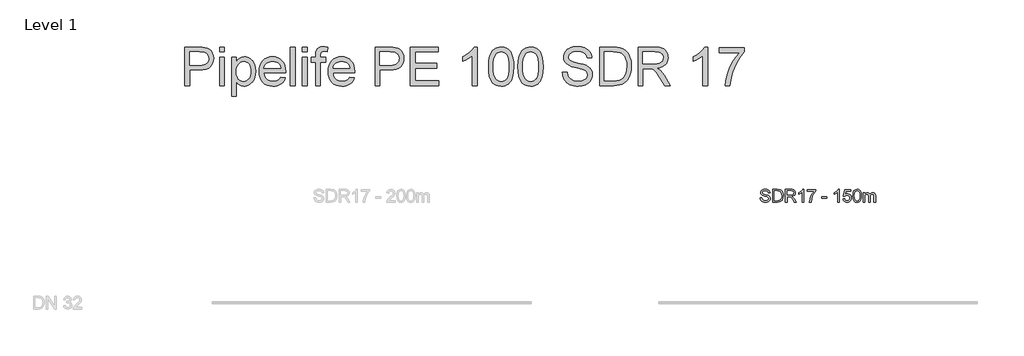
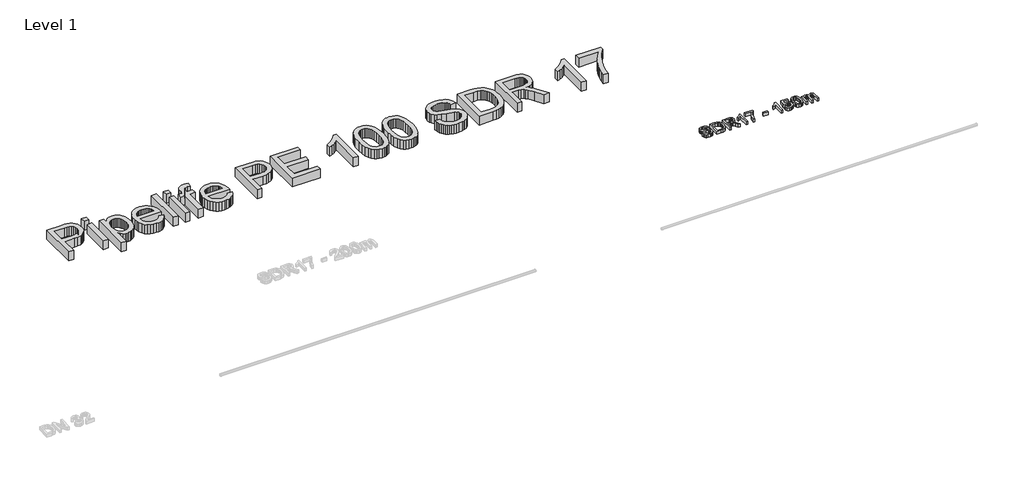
# One storey, part 14 of 26: 2 proxies.
"""IFC4 building model written with IfcOpenShell, lengths in millimetres."""

from ifc_helpers import new_model, si_unit, origin, origin_with_axes, place, context, project, spatial, polyline, outline, extrude, element, save

model = new_model("IFC4")

# Units and contexts
model_context = context("Model", 3, world=origin())
ifc_project = project(units=[si_unit("LENGTHUNIT", "METRE", prefix="MILLI")], contexts=[model_context])

# Site, building, storey
site = spatial("IfcSite", under=ifc_project)
building = spatial("IfcBuilding", under=site)
storey = spatial("IfcBuildingStorey", under=building, Name="Level 1", Elevation=0.0)

# Proxies
placement = place(None, origin())
element("IfcBuildingElementProxy", 1, Name="200mm Arial", ObjectType="200mm Arial", at=placement, inside=storey, context=model_context, shape_type="SweptSolid", body=[
    extrude(outline(polyline([(-7939.9131763, -36668.9871574), (-7914.7990987, -36668.9871574), (-7906.7056948, -36694.1257604), (-7898.5755027, -36703.016242), (-7886.9381689, -36710.0182626), (-7872.7133985, -36714.5616053), (-7856.8208963, -36716.0760528), (-7830.5786473, -36711.4897906), (-7813.63155, -36698.8837009), (-7808.0642692, -36682.0347055), (-7812.2335985, -36666.3629325), (-7818.5856942, -36660.1641209), (-7829.303323, -36654.9585907), (-7865.8707934, -36645.3691333), (-7905.2341668, -36632.9837728), (-7917.7360233, -36624.5347497), (-7926.595848, -36614.2953675), (-7931.8749547, -36602.4863554), (-7933.6346569, -36589.3284427), (-7931.4580217, -36574.6192943), (-7924.9281163, -36560.9034272), (-7914.2166189, -36549.2783562), (-7899.4952077, -36540.8415958), (-7881.8246092, -36535.7096419), (-7862.2655498, -36533.9989907), (-7841.0755469, -36535.7893497), (-7822.5342943, -36541.1604268), (-7807.3039797, -36550.0018575), (-7796.0467907, -36562.203277), (-7788.9221427, -36577.0043959), (-7786.0894513, -36593.6449248), (-7811.2035289, -36593.6449248), (-7815.8143165, -36578.6598649), (-7825.4282994, -36567.8441342), (-7840.4501475, -36561.2958347), (-7861.2845312, -36559.1130682), (-7882.6094241, -36561.2713092), (-7897.2388648, -36567.7460324), (-7905.7001507, -36577.274176), (-7908.5205793, -36588.5926788), (-7906.5217538, -36598.2434498), (-7900.5252773, -36606.0057599), (-7886.3495578, -36612.9464668), (-7859.5186976, -36620.0343266), (-7815.0785526, -36632.6404163), (-7800.7618116, -36641.7516271), (-7790.7738154, -36652.9965534), (-7784.9060976, -36666.2525679), (-7782.9501916, -36681.3970434), (-7785.2004032, -36696.878744), (-7791.9510378, -36711.4407397), (-7802.926184, -36723.973253), (-7817.8499303, -36733.3665066), (-7835.7964403, -36739.2342244), (-7855.8398776, -36741.1901304), (-7880.4450517, -36739.0809402), (-7900.6969556, -36732.7533699), (-7916.8285811, -36722.1828939), (-7929.0729201, -36707.3449868), (-7936.9333321, -36689.2697181), (-7939.9131763, -36668.9871574)])), origin_with_axes(), (0.0, 0.0, 1.0), 50.0),
    extrude(outline(polyline([(-7745.2790753, -36738.0508707), (-7745.2790753, -36537.1382504), (-7675.9701074, -36537.1382504), (-7640.1138757, -36540.0322554), (-7624.0987461, -36545.611799), (-7610.5852142, -36554.4041787), (-7596.6915375, -36569.7080697), (-7586.7955118, -36588.7398315), (-7580.8726117, -36611.1315823), (-7578.8983117, -36636.51544), (-7584.2448633, -36677.0560359), (-7597.9791245, -36706.3149172), (-7616.3241733, -36724.5373387), (-7640.3346048, -36734.6173054), (-7672.634644, -36738.0508707), (-7745.2790753, -36738.0508707)]), holes=[polyline([(-7720.1649978, -36712.9367931), (-7675.7248528, -36712.9367931), (-7643.4002881, -36709.3070241), (-7624.7609337, -36699.0553792), (-7616.0359991, -36688.1844662), (-7609.4815682, -36674.1129799), (-7605.3796839, -36656.7796066), (-7604.0123892, -36636.1230325), (-7606.6917964, -36608.7526121), (-7614.730018, -36588.5436278), (-7626.6064751, -36574.6622139), (-7640.8005887, -36566.2745044), (-7676.4115658, -36562.2523279), (-7720.1649978, -36562.2523279), (-7720.1649978, -36712.9367931)])]), origin_with_axes(), (0.0, 0.0, 1.0), 50.0),
    extrude(outline(polyline([(-7544.366455, -36738.0508707), (-7544.366455, -36537.1382504), (-7457.7915588, -36537.1382504), (-7434.5230226, -36538.4932824), (-7417.5943195, -36542.5583784), (-7405.2212217, -36550.0631711), (-7395.6195017, -36561.7372931), (-7389.4574782, -36576.2134496), (-7387.4034704, -36592.1243459), (-7390.8063789, -36611.9163972), (-7401.0151043, -36628.3239342), (-7418.3362149, -36640.3536755), (-7443.076279, -36647.0123396), (-7428.8024576, -36657.7544938), (-7408.4463206, -36683.6043354), (-7374.9445335, -36738.0508707), (-7404.1298385, -36738.0508707), (-7430.2739856, -36696.4066288), (-7449.1585947, -36668.8400046), (-7462.426872, -36655.816982), (-7474.3707741, -36651.0345161), (-7488.9389011, -36650.1515993), (-7519.2523775, -36650.1515993), (-7519.2523775, -36738.0508707), (-7544.366455, -36738.0508707)]), holes=[polyline([(-7519.2523775, -36625.0375217), (-7463.0400086, -36625.0375217), (-7434.3697385, -36621.4813291), (-7424.9396967, -36616.8582787), (-7418.0848288, -36610.1015127), (-7412.517548, -36593.0563136), (-7415.1724297, -36580.8058432), (-7423.1370749, -36570.934343), (-7436.8406792, -36564.4228317), (-7456.7124383, -36562.2523279), (-7519.2523775, -36562.2523279), (-7519.2523775, -36625.0375217)])]), origin_with_axes(), (0.0, 0.0, 1.0), 50.0),
    extrude(outline(polyline([(-7258.6938231, -36738.0508707), (-7283.8079006, -36738.0508707), (-7283.8079006, -36581.4802935), (-7307.5976029, -36598.4273908), (-7334.0360557, -36611.1070569), (-7334.0360557, -36587.3664054), (-7297.2233307, -36563.8710087), (-7283.7527183, -36550.2961631), (-7274.8806308, -36537.1382504), (-7258.6938231, -36537.1382504), (-7258.6938231, -36738.0508707)])), origin_with_axes(), (0.0, 0.0, 1.0), 50.0),
    extrude(outline(polyline([(-7199.0478889, -36565.3915876), (-7199.0478889, -36540.2775101), (-7067.1989818, -36540.2775101), (-7067.1989818, -36560.5845962), (-7085.9916204, -36584.3681672), (-7104.600318, -36614.6141985), (-7121.0139864, -36648.5635753), (-7133.2215372, -36683.4571826), (-7142.5412144, -36738.0508707), (-7167.655292, -36738.0508707), (-7164.9390966, -36712.1642409), (-7157.6734272, -36681.3970434), (-7146.0544875, -36648.7843045), (-7130.2784813, -36617.3610508), (-7111.859856, -36588.9544294), (-7092.3130594, -36565.3915876), (-7199.0478889, -36565.3915876)])), origin_with_axes(), (0.0, 0.0, 1.0), 50.0),
    extrude(outline(polyline([(-6973.0211911, -36678.4049365), (-6973.0211911, -36653.290859), (-6894.5396988, -36653.290859), (-6894.5396988, -36678.4049365), (-6973.0211911, -36678.4049365)])), origin_with_axes(), (0.0, 0.0, 1.0), 50.0),
    extrude(outline(polyline([(-6699.9055978, -36738.0508707), (-6725.0196754, -36738.0508707), (-6725.0196754, -36581.4802935), (-6748.8093777, -36598.4273908), (-6775.2478305, -36611.1070569), (-6775.2478305, -36587.3664054), (-6738.4351055, -36563.8710087), (-6724.9644931, -36550.2961631), (-6716.0924056, -36537.1382504), (-6699.9055978, -36537.1382504), (-6699.9055978, -36738.0508707)])), origin_with_axes(), (0.0, 0.0, 1.0), 50.0),
    extrude(outline(polyline([(-6640.2596637, -36684.6834559), (-6615.1455862, -36681.5441962), (-6610.5347985, -36696.6212266), (-6602.4904455, -36707.4185632), (-6591.0493155, -36713.9116804), (-6576.2481965, -36716.0760528), (-6558.2465042, -36713.0655518), (-6544.7574977, -36704.0340488), (-6536.3330001, -36690.0238762), (-6533.5248342, -36672.0773662), (-6536.1551904, -36655.1793199), (-6544.0462592, -36642.2543991), (-6557.2593542, -36634.0506306), (-6575.8557891, -36631.3160411), (-6597.9041833, -36635.6815741), (-6612.0063265, -36647.0123396), (-6637.120404, -36643.8730799), (-6615.1455862, -36540.2775101), (-6517.8285357, -36540.2775101), (-6517.8285357, -36565.3915876), (-6594.8385, -36565.3915876), (-6605.5806543, -36620.7210397), (-6587.6402757, -36609.8317326), (-6568.8415057, -36606.2019636), (-6545.3767658, -36610.7023867), (-6525.8974141, -36624.2036559), (-6512.782421, -36644.7805221), (-6508.4107566, -36670.5077363), (-6512.347094, -36695.6218139), (-6524.156106, -36717.1061224), (-6534.5916919, -36727.6428759), (-6546.768586, -36735.1691284), (-6560.6867881, -36739.6848799), (-6576.3462984, -36741.1901304), (-6601.0127862, -36737.321238), (-6620.6638161, -36725.7145611), (-6634.1344285, -36707.7190002), (-6640.2596637, -36684.6834559)])), origin_with_axes(), (0.0, 0.0, 1.0), 50.0),
    extrude(outline(polyline([(-6486.4359388, -36639.2132413), (-6484.5903974, -36607.0542235), (-6479.0537734, -36581.4067171), (-6469.881249, -36561.8783145), (-6457.1280065, -36548.0766083), (-6440.7020754, -36539.8728399), (-6420.5114852, -36537.1382504), (-6405.035916, -36538.7569311), (-6391.1790275, -36543.6129735), (-6379.5907446, -36551.516305), (-6370.9209923, -36562.2768534), (-6359.1487684, -36592.0017186), (-6354.5870317, -36639.2132413), (-6356.4141789, -36671.188318), (-6361.8956207, -36696.7745108), (-6371.0129628, -36716.3213075), (-6383.7478112, -36730.178196), (-6400.2105305, -36738.4371468), (-6420.5114852, -36741.1901304), (-6446.6065814, -36736.4076644), (-6466.4231582, -36722.0602666), (-6475.1787497, -36706.9311195), (-6481.4327436, -36688.080233), (-6486.4359388, -36639.2132413)]), holes=[polyline([(-6461.3218612, -36639.1641904), (-6458.3788053, -36678.6685853), (-6449.5496374, -36701.5324513), (-6436.4039874, -36712.4401524), (-6420.5114852, -36716.0760528), (-6404.6189831, -36712.4278897), (-6391.4733331, -36701.4834003), (-6382.6441652, -36678.6072716), (-6379.7011092, -36639.1641904), (-6382.5460633, -36600.5488436), (-6391.0809256, -36577.507168), (-6404.2020501, -36566.0660379), (-6420.8057908, -36562.2523279), (-6436.5266148, -36565.6123168), (-6449.1572299, -36575.6922835), (-6458.2807034, -36600.1686989), (-6461.3218612, -36639.1641904)])]), origin_with_axes(), (0.0, 0.0, 1.0), 50.0),
    extrude(outline(polyline([(-6326.3336945, -36738.0508707), (-6326.3336945, -36590.5056651), (-6301.2196169, -36590.5056651), (-6301.2196169, -36614.7858768), (-6293.6657733, -36603.632921), (-6283.9536886, -36594.8957236), (-6272.4144567, -36589.248735), (-6259.3791714, -36587.3664054), (-6245.4119183, -36589.2855232), (-6234.2160429, -36595.0428764), (-6225.8528589, -36604.2583204), (-6220.3836799, -36616.5517104), (-6211.2295496, -36603.7831395), (-6200.7878323, -36594.6627317), (-6189.058528, -36589.190487), (-6176.0416367, -36587.3664054), (-6157.163159, -36590.4014319), (-6143.2020373, -36599.5065113), (-6134.5752045, -36614.9268982), (-6131.6995936, -36636.9078475), (-6131.6995936, -36738.0508707), (-6156.8136711, -36738.0508707), (-6156.8136711, -36647.6990526), (-6159.1435904, -36626.7297789), (-6167.5803508, -36616.4045576), (-6181.9277486, -36612.480483), (-6195.5332511, -36614.9943433), (-6206.6248932, -36622.5359242), (-6214.0009272, -36635.6202605), (-6216.4596053, -36654.762387), (-6216.4596053, -36738.0508707), (-6241.5736828, -36738.0508707), (-6241.5736828, -36644.9031495), (-6243.0268167, -36630.7029045), (-6247.3862183, -36620.5738869), (-6255.0565579, -36614.5038339), (-6266.4425057, -36612.480483), (-6285.0328092, -36617.8760856), (-6292.3904491, -36624.5224869), (-6297.3936442, -36633.6704859), (-6301.2196169, -36663.6406058), (-6301.2196169, -36738.0508707), (-6326.3336945, -36738.0508707)])), origin_with_axes(), (0.0, 0.0, 1.0), 50.0),
])
element("IfcBuildingElementProxy", 2, Name="600mm Arial", ObjectType="600mm Arial", at=placement, inside=storey, context=model_context, shape_type="SweptSolid", body=[
    extrude(outline(polyline([(-16966.7426717, -34909.5373902), (-16966.7426717, -34306.7995293), (-16743.3647242, -34306.7995293), (-16691.3462101, -34308.2342691), (-16653.3072118, -34312.5384884), (-16613.152892, -34323.2622486), (-16580.0986947, -34340.7182492), (-16553.4824324, -34365.6974367), (-16532.6419174, -34398.9907573), (-16519.1774363, -34438.2621602), (-16514.689276, -34481.175595), (-16517.7197039, -34518.1753266), (-16526.8109877, -34552.2136083), (-16541.9631274, -34583.2904398), (-16563.176123, -34611.4058213), (-16592.2985814, -34634.7111457), (-16631.1791098, -34651.357806), (-16679.8177081, -34661.3458021), (-16738.2143763, -34664.6751342), (-16891.4004391, -34664.6751342), (-16891.4004391, -34909.5373902), (-16966.7426717, -34909.5373902)]), holes=[polyline([(-16891.4004391, -34589.3329016), (-16733.7997923, -34589.3329016), (-16697.5634158, -34587.6038562), (-16666.992422, -34582.4167201), (-16642.0868109, -34573.7714932), (-16622.8465826, -34561.6681755), (-16608.4899877, -34546.4286639), (-16598.2352771, -34528.374855), (-16592.0824507, -34507.5067488), (-16590.0315086, -34483.8243453), (-16594.8691569, -34449.9792018), (-16609.3821016, -34421.431559), (-16631.767721, -34399.9472504), (-16660.2233933, -34387.2921098), (-16689.2860709, -34383.4293489), (-16735.5656259, -34382.1417619), (-16891.4004391, -34382.1417619), (-16891.4004391, -34589.3329016)])]), origin_with_axes(), (0.0, 0.0, 1.0), 150.0),
    extrude(outline(polyline([(-16420.5114852, -34909.5373902), (-16420.5114852, -34466.9017736), (-16345.1692526, -34466.9017736), (-16345.1692526, -34909.5373902), (-16420.5114852, -34909.5373902)])), origin_with_axes(), (0.0, 0.0, 1.0), 150.0),
    extrude(outline(polyline([(-16420.5114852, -34382.1417619), (-16420.5114852, -34306.7995293), (-16345.1692526, -34306.7995293), (-16345.1692526, -34382.1417619), (-16420.5114852, -34382.1417619)])), origin_with_axes(), (0.0, 0.0, 1.0), 150.0),
    extrude(outline(polyline([(-16232.1559037, -35079.0574135), (-16232.1559037, -34466.9017736), (-16156.8136711, -34466.9017736), (-16156.8136711, -34540.7724782), (-16132.2391538, -34504.3337666), (-16104.7215806, -34478.3061154), (-16072.6422706, -34462.6895247), (-16034.3825431, -34457.4839945), (-16008.1065716, -34459.3050104), (-15983.4308868, -34464.768058), (-15960.3554886, -34473.8731374), (-15938.8803772, -34486.6202485), (-15919.4746019, -34502.6782976), (-15902.6072124, -34521.7161909), (-15888.2782087, -34543.7339283), (-15876.4875908, -34568.7315098), (-15860.7054532, -34624.2449029), (-15855.4447407, -34684.8350675), (-15861.3860349, -34749.269599), (-15868.8126527, -34778.9346834), (-15879.2099175, -34806.8983135), (-15892.4352753, -34832.429324), (-15908.3461716, -34854.7965493), (-15926.9426064, -34873.9999894), (-15948.2245798, -34890.0396444), (-15971.1482267, -34902.6901865), (-15994.6696817, -34911.726288), (-16018.788945, -34917.1479489), (-16043.5060166, -34918.9551692), (-16078.1421064, -34914.117521), (-16109.0625881, -34899.6045763), (-16135.5316977, -34877.6972035), (-16156.8136711, -34850.6762709), (-16156.8136711, -35079.0574135), (-16232.1559037, -35079.0574135)]), holes=[polyline([(-16156.8136711, -34691.751249), (-16154.7765246, -34728.0612019), (-16148.6650849, -34759.2943833), (-16138.4793522, -34785.4507932), (-16124.2193263, -34806.5304315), (-16107.0530327, -34822.7540275), (-16088.1484967, -34834.3423104), (-16067.5057182, -34841.2952801), (-16045.1246974, -34843.6129366), (-16022.4217797, -34841.2125066), (-16001.4019222, -34834.0112166), (-15982.0651249, -34822.0090665), (-15964.4113876, -34805.2060563), (-15949.7007063, -34783.3630629), (-15939.1930769, -34756.2409628), (-15932.8884992, -34723.8397561), (-15930.7869733, -34686.1594427), (-15932.8379154, -34650.1621895), (-15938.9907418, -34618.9841904), (-15949.2454524, -34592.6254454), (-15963.6020472, -34571.0859546), (-15980.8097276, -34554.3473238), (-15999.6176946, -34542.391159), (-16020.0259482, -34535.2174601), (-16042.0344886, -34532.8262271), (-16063.9740511, -34535.3692114), (-16084.6168295, -34542.9981643), (-16103.962824, -34555.7130857), (-16122.0120344, -34573.5139758), (-16137.2377504, -34596.1617111), (-16148.1132619, -34623.4171684), (-16154.6385688, -34655.2803477), (-16156.8136711, -34691.751249)])]), origin_with_axes(), (0.0, 0.0, 1.0), 150.0),
    extrude(outline(polyline([(-15460.7809362, -34777.6884831), (-15386.9102316, -34787.1062622), (-15398.2363985, -34816.6931716), (-15413.5264939, -34842.766808), (-15432.7805179, -34865.3271714), (-15455.9984703, -34884.3742617), (-15482.9412279, -34899.5034087), (-15513.3696674, -34910.3099424), (-15547.2837889, -34916.7938625), (-15584.6835922, -34918.9551692), (-15631.4321967, -34915.2257655), (-15673.0856356, -34904.0375543), (-15709.6439089, -34885.3905357), (-15741.1070165, -34859.2847096), (-15766.4081008, -34826.446643), (-15784.4803038, -34787.6029029), (-15795.3236256, -34742.7534891), (-15798.9380662, -34691.8984018), (-15795.2868374, -34639.3188677), (-15784.333151, -34592.9749333), (-15766.077007, -34552.8665988), (-15740.5184054, -34518.9938641), (-15709.1380712, -34492.0832961), (-15673.4167294, -34472.8614619), (-15633.3543802, -34461.3283613), (-15588.9510233, -34457.4839945), (-15545.9778078, -34461.3191643), (-15507.1156735, -34472.8246737), (-15472.3646205, -34492.0005227), (-15441.7246489, -34518.8467113), (-15416.7132717, -34552.6458696), (-15398.8480023, -34592.6806277), (-15388.1288407, -34638.9509857), (-15384.5557868, -34691.4569434), (-15384.9972452, -34711.7640296), (-15723.5958336, -34711.7640296), (-15719.2318334, -34741.8291856), (-15710.5544168, -34768.1603394), (-15697.5635839, -34790.757491), (-15680.2593345, -34809.6206403), (-15659.598162, -34824.4922699), (-15636.5365594, -34835.1148625), (-15611.0745268, -34841.4884181), (-15583.2120642, -34843.6129366), (-15543.1129267, -34839.6765993), (-15509.3413596, -34827.8675872), (-15481.8973627, -34807.4501365), (-15460.7809362, -34777.6884831)]), holes=[polyline([(-15723.5958336, -34636.4217969), (-15459.8980194, -34636.4217969), (-15470.0883507, -34596.6169651), (-15478.8531392, -34580.9635862), (-15490.064343, -34568.1428986), (-15510.6105525, -34552.6918548), (-15533.9894533, -34541.655395), (-15560.2010454, -34535.0335191), (-15589.2453289, -34532.8262271), (-15615.7374311, -34534.5874622), (-15640.0314384, -34539.8711673), (-15662.1273507, -34548.6773426), (-15682.0251681, -34561.0059879), (-15698.7224122, -34576.2868863), (-15711.2166044, -34593.9498206), (-15719.5077449, -34613.9947908), (-15723.5958336, -34636.4217969)])]), origin_with_axes(), (0.0, 0.0, 1.0), 150.0),
    extrude(outline(polyline([(-15309.2135542, -34909.5373902), (-15309.2135542, -34306.7995293), (-15233.8713216, -34306.7995293), (-15233.8713216, -34909.5373902), (-15309.2135542, -34909.5373902)])), origin_with_axes(), (0.0, 0.0, 1.0), 150.0),
    extrude(outline(polyline([(-15120.8579727, -34382.1417619), (-15120.8579727, -34306.7995293), (-15045.5157401, -34306.7995293), (-15045.5157401, -34382.1417619), (-15120.8579727, -34382.1417619)])), origin_with_axes(), (0.0, 0.0, 1.0), 150.0),
    extrude(outline(polyline([(-15120.8579727, -34909.5373902), (-15120.8579727, -34466.9017736), (-15045.5157401, -34466.9017736), (-15045.5157401, -34909.5373902), (-15120.8579727, -34909.5373902)])), origin_with_axes(), (0.0, 0.0, 1.0), 150.0),
    extrude(outline(polyline([(-14913.666833, -34909.5373902), (-14913.666833, -34542.2440062), (-14979.5912865, -34542.2440062), (-14979.5912865, -34466.9017736), (-14913.666833, -34466.9017736), (-14913.666833, -34422.3144758), (-14911.6802702, -34385.4159116), (-14905.7205819, -34359.480231), (-14890.5638437, -34334.4274671), (-14867.1665488, -34314.5986276), (-14834.4250512, -34301.6859695), (-14791.235705, -34297.3817502), (-14758.5309956, -34299.4418894), (-14722.5153483, -34305.6223069), (-14733.5518082, -34376.25565), (-14776.9618836, -34372.7239828), (-14805.6014969, -34375.8509798), (-14824.418661, -34385.2319706), (-14834.8481155, -34403.1478238), (-14838.3246004, -34431.8794076), (-14838.3246004, -34466.9017736), (-14753.5645887, -34466.9017736), (-14753.5645887, -34542.2440062), (-14838.3246004, -34542.2440062), (-14838.3246004, -34909.5373902), (-14913.666833, -34909.5373902)])), origin_with_axes(), (0.0, 0.0, 1.0), 150.0),
    extrude(outline(polyline([(-14377.7363424, -34777.6884831), (-14303.8656378, -34787.1062622), (-14315.1918047, -34816.6931716), (-14330.4819001, -34842.766808), (-14349.7359241, -34865.3271714), (-14372.9538765, -34884.3742617), (-14399.8966341, -34899.5034087), (-14430.3250736, -34910.3099424), (-14464.2391951, -34916.7938625), (-14501.6389984, -34918.9551692), (-14548.3876029, -34915.2257655), (-14590.0410418, -34904.0375543), (-14626.5993151, -34885.3905357), (-14658.0624227, -34859.2847096), (-14683.363507, -34826.446643), (-14701.43571, -34787.6029029), (-14712.2790318, -34742.7534891), (-14715.8934724, -34691.8984018), (-14712.2422436, -34639.3188677), (-14701.2885572, -34592.9749333), (-14683.0324132, -34552.8665988), (-14657.4738116, -34518.9938641), (-14626.0934774, -34492.0832961), (-14590.3721356, -34472.8614619), (-14550.3097864, -34461.3283613), (-14505.9064295, -34457.4839945), (-14462.933214, -34461.3191643), (-14424.0710797, -34472.8246737), (-14389.3200267, -34492.0005227), (-14358.6800551, -34518.8467113), (-14333.6686779, -34552.6458696), (-14315.8034085, -34592.6806277), (-14305.0842469, -34638.9509857), (-14301.511193, -34691.4569434), (-14301.9526514, -34711.7640296), (-14640.5512398, -34711.7640296), (-14636.1872396, -34741.8291856), (-14627.509823, -34768.1603394), (-14614.5189901, -34790.757491), (-14597.2147407, -34809.6206403), (-14576.5535682, -34824.4922699), (-14553.4919656, -34835.1148625), (-14528.029933, -34841.4884181), (-14500.1674704, -34843.6129366), (-14460.0683329, -34839.6765993), (-14426.2967658, -34827.8675872), (-14398.8527689, -34807.4501365), (-14377.7363424, -34777.6884831)]), holes=[polyline([(-14640.5512398, -34636.4217969), (-14376.8534256, -34636.4217969), (-14387.0437569, -34596.6169651), (-14395.8085454, -34580.9635862), (-14407.0197492, -34568.1428986), (-14427.5659587, -34552.6918548), (-14450.9448595, -34541.655395), (-14477.1564516, -34535.0335191), (-14506.2007351, -34532.8262271), (-14532.6928373, -34534.5874622), (-14556.9868446, -34539.8711673), (-14579.0827569, -34548.6773426), (-14598.9805743, -34561.0059879), (-14615.6778184, -34576.2868863), (-14628.1720106, -34593.9498206), (-14636.4631511, -34613.9947908), (-14640.5512398, -34636.4217969)])]), origin_with_axes(), (0.0, 0.0, 1.0), 150.0),
    extrude(outline(polyline([(-13981.3067044, -34909.5373902), (-13981.3067044, -34306.7995293), (-13757.928757, -34306.7995293), (-13705.9102428, -34308.2342691), (-13667.8712445, -34312.5384884), (-13627.7169248, -34323.2622486), (-13594.6627275, -34340.7182492), (-13568.0464651, -34365.6974367), (-13547.2059501, -34398.9907573), (-13533.7414691, -34438.2621602), (-13529.2533087, -34481.175595), (-13532.2837367, -34518.1753266), (-13541.3750205, -34552.2136083), (-13556.5271602, -34583.2904398), (-13577.7401557, -34611.4058213), (-13606.8626142, -34634.7111457), (-13645.7431425, -34651.357806), (-13694.3817408, -34661.3458021), (-13752.778409, -34664.6751342), (-13905.9644718, -34664.6751342), (-13905.9644718, -34909.5373902), (-13981.3067044, -34909.5373902)]), holes=[polyline([(-13905.9644718, -34589.3329016), (-13748.3638251, -34589.3329016), (-13712.1274486, -34587.6038562), (-13681.5564548, -34582.4167201), (-13656.6508437, -34573.7714932), (-13637.4106153, -34561.6681755), (-13623.0540205, -34546.4286639), (-13612.7993099, -34528.374855), (-13606.6464835, -34507.5067488), (-13604.5955414, -34483.8243453), (-13609.4331896, -34449.9792018), (-13623.9461343, -34421.431559), (-13646.3317537, -34399.9472504), (-13674.787426, -34387.2921098), (-13703.8501037, -34383.4293489), (-13750.1296587, -34382.1417619), (-13905.9644718, -34382.1417619), (-13905.9644718, -34589.3329016)])]), origin_with_axes(), (0.0, 0.0, 1.0), 150.0),
    extrude(outline(polyline([(-13425.6577389, -34909.5373902), (-13425.6577389, -34306.7995293), (-12992.4399014, -34306.7995293), (-12992.4399014, -34382.1417619), (-13350.3155063, -34382.1417619), (-13350.3155063, -34561.0795643), (-13011.2754595, -34561.0795643), (-13011.2754595, -34636.4217969), (-13350.3155063, -34636.4217969), (-13350.3155063, -34834.1951576), (-12983.0221223, -34834.1951576), (-12983.0221223, -34909.5373902), (-13425.6577389, -34909.5373902)])), origin_with_axes(), (0.0, 0.0, 1.0), 150.0),
    extrude(outline(polyline([(-12380.2842614, -34909.5373902), (-12455.626494, -34909.5373902), (-12455.626494, -34439.8256587), (-12487.0804046, -34465.2646987), (-12526.9956011, -34490.6669505), (-12568.8973603, -34512.8686289), (-12606.3109592, -34528.7059488), (-12606.3109592, -34457.4839945), (-12547.1371403, -34425.2943199), (-12495.8727843, -34386.9978042), (-12455.4609471, -34346.2732674), (-12428.8446848, -34306.7995293), (-12380.2842614, -34306.7995293), (-12380.2842614, -34909.5373902)])), origin_with_axes(), (0.0, 0.0, 1.0), 150.0),
    extrude(outline(polyline([(-12201.346459, -34613.0245021), (-12195.8098349, -34516.5474488), (-12188.8890549, -34475.6343724), (-12179.1999628, -34439.6049295), (-12166.7839455, -34408.1648145), (-12151.6823896, -34381.0197218), (-12133.8952951, -34358.1696514), (-12113.4226621, -34339.6146032), (-12090.1955126, -34325.2580084), (-12064.1448689, -34315.0032978), (-12035.2707308, -34308.8504714), (-12003.5730984, -34306.7995293), (-11957.1463906, -34311.6555716), (-11915.5757251, -34326.2236986), (-11880.8108766, -34349.9336932), (-11854.8016195, -34382.2153383), (-11835.156721, -34422.7927223), (-11819.484948, -34471.3899339), (-11809.2210403, -34533.1021386), (-11805.7997377, -34613.0245021), (-11811.2811795, -34708.9497323), (-11818.1329816, -34749.7248529), (-11827.7255047, -34785.7083106), (-11840.044953, -34817.1622212), (-11855.077531, -34844.3487006), (-11872.8232387, -34867.2677489), (-11893.2820762, -34885.9193661), (-11916.5368168, -34900.37253), (-11942.670234, -34910.6962185), (-11971.6823279, -34916.8904315), (-12003.5730984, -34918.9551692), (-12045.0701874, -34915.3683198), (-12081.8583869, -34904.6077714), (-12113.9376969, -34886.6735242), (-12141.3081173, -34861.565578), (-12167.5748918, -34816.1781368), (-12186.3368736, -34759.6254771), (-12197.5940626, -34691.9075989), (-12201.346459, -34613.0245021)]), holes=[polyline([(-12126.0042263, -34612.8773493), (-12123.7969344, -34678.37414), (-12117.1750585, -34731.390534), (-12106.1385986, -34771.9265313), (-12090.6875548, -34799.982132), (-12071.9991495, -34819.070609), (-12051.2506049, -34832.7052355), (-12028.4419212, -34840.8860113), (-12003.5730984, -34843.6129366), (-11978.7042755, -34840.8768143), (-11955.8955918, -34832.6684473), (-11935.1470472, -34818.9878356), (-11916.4586419, -34799.8349792), (-11901.0075981, -34771.7333933), (-11889.9711382, -34731.206593), (-11883.3492623, -34678.2545783), (-11881.1419704, -34612.8773493), (-11883.2756859, -34549.1142024), (-11889.6768326, -34497.031309), (-11900.3454105, -34456.6286689), (-11915.2814195, -34427.9062821), (-11933.6571252, -34407.8843045), (-11954.644793, -34393.5828919), (-11978.244423, -34385.0020444), (-12004.4560151, -34382.1417619), (-12029.1960793, -34384.6617535), (-12051.6184869, -34392.2217286), (-12071.723238, -34404.8216869), (-12089.5103324, -34422.4616286), (-12105.476411, -34453.7315981), (-12116.8807529, -34495.8908748), (-12123.723358, -34548.9394585), (-12126.0042263, -34612.8773493)])]), origin_with_axes(), (0.0, 0.0, 1.0), 150.0),
    extrude(outline(polyline([(-11739.8752842, -34613.0245021), (-11734.3386602, -34516.5474488), (-11727.4178801, -34475.6343724), (-11717.7287881, -34439.6049295), (-11705.3127708, -34408.1648145), (-11690.2112149, -34381.0197218), (-11672.4241204, -34358.1696514), (-11651.9514874, -34339.6146032), (-11628.7243379, -34325.2580084), (-11602.6736941, -34315.0032978), (-11573.799556, -34308.8504714), (-11542.1019236, -34306.7995293), (-11495.6752158, -34311.6555716), (-11454.1045504, -34326.2236986), (-11419.3397018, -34349.9336932), (-11393.3304448, -34382.2153383), (-11373.6855462, -34422.7927223), (-11358.0137732, -34471.3899339), (-11347.7498655, -34533.1021386), (-11344.328563, -34613.0245021), (-11349.8100047, -34708.9497323), (-11356.6618069, -34749.7248529), (-11366.2543299, -34785.7083106), (-11378.5737782, -34817.1622212), (-11393.6063562, -34844.3487006), (-11411.352064, -34867.2677489), (-11431.8109014, -34885.9193661), (-11455.0656421, -34900.37253), (-11481.1990593, -34910.6962185), (-11510.2111531, -34916.8904315), (-11542.1019236, -34918.9551692), (-11583.5990127, -34915.3683198), (-11620.3872122, -34904.6077714), (-11652.4665222, -34886.6735242), (-11679.8369426, -34861.565578), (-11706.1037171, -34816.1781368), (-11724.8656988, -34759.6254771), (-11736.1228879, -34691.9075989), (-11739.8752842, -34613.0245021)]), holes=[polyline([(-11664.5330516, -34612.8773493), (-11662.3257596, -34678.37414), (-11655.7038837, -34731.390534), (-11644.6674239, -34771.9265313), (-11629.2163801, -34799.982132), (-11610.5279747, -34819.070609), (-11589.7794302, -34832.7052355), (-11566.9707465, -34840.8860113), (-11542.1019236, -34843.6129366), (-11517.2331007, -34840.8768143), (-11494.424417, -34832.6684473), (-11473.6758725, -34818.9878356), (-11454.9874671, -34799.8349792), (-11439.5364233, -34771.7333933), (-11428.4999635, -34731.206593), (-11421.8780876, -34678.2545783), (-11419.6707956, -34612.8773493), (-11421.8045112, -34549.1142024), (-11428.2056579, -34497.031309), (-11438.8742358, -34456.6286689), (-11453.8102448, -34427.9062821), (-11472.1859504, -34407.8843045), (-11493.1736182, -34393.5828919), (-11516.7732482, -34385.0020444), (-11542.9848404, -34382.1417619), (-11567.7249046, -34384.6617535), (-11590.1473122, -34392.2217286), (-11610.2520632, -34404.8216869), (-11628.0391577, -34422.4616286), (-11644.0052363, -34453.7315981), (-11655.4095781, -34495.8908748), (-11662.2521832, -34548.9394585), (-11664.5330516, -34612.8773493)])]), origin_with_axes(), (0.0, 0.0, 1.0), 150.0),
    extrude(outline(polyline([(-11042.9596325, -34702.3462505), (-10967.6173999, -34702.3462505), (-10958.972173, -34744.1560392), (-10943.3371883, -34777.7620595), (-10918.946612, -34804.4335041), (-10884.0346106, -34825.4395661), (-10841.3602992, -34839.069594), (-10793.6827926, -34843.6129366), (-10751.707457, -34840.17324), (-10714.9560456, -34829.85415), (-10685.1759981, -34813.5201894), (-10664.1147539, -34792.0358809), (-10651.588372, -34767.3693931), (-10647.4129113, -34741.4888948), (-10650.5399083, -34716.270584), (-10659.9208992, -34694.4735758), (-10678.9771865, -34675.8771409), (-10711.1300729, -34660.2605502), (-10820.8324839, -34631.4921782), (-10892.8453844, -34612.454285), (-10938.9226043, -34594.3360967), (-10976.4281737, -34568.9890272), (-11003.0076479, -34538.2708806), (-11018.8449678, -34502.8438445), (-11024.1240744, -34463.3701064), (-11022.491598, -34440.9339032), (-11017.594169, -34419.2426611), (-11009.4317872, -34398.29638), (-10998.0044527, -34378.0950599), (-10983.4409243, -34359.4618369), (-10965.8699605, -34343.2198468), (-10945.2915614, -34329.3690897), (-10921.7057269, -34317.9095655), (-10868.6939314, -34302.513704), (-10810.0167532, -34297.3817502), (-10746.4467444, -34302.7528273), (-10690.8229868, -34318.8660587), (-10666.4875928, -34330.8682088), (-10645.132043, -34345.3903506), (-10626.7563373, -34362.432484), (-10611.3604758, -34381.9946091), (-10599.0640201, -34403.5065088), (-10589.9865319, -34426.3979659), (-10584.1280111, -34450.6689805), (-10581.4884578, -34476.3195526), (-10656.8306904, -34476.3195526), (-10661.8706737, -34452.2784643), (-10670.6630534, -34431.3643728), (-10683.2078295, -34413.5772784), (-10699.5050018, -34398.9171809), (-10719.8580732, -34387.4576567), (-10744.5705463, -34379.2722823), (-10773.6424209, -34374.3610577), (-10807.0736972, -34372.7239828), (-10841.5718313, -34374.3426636), (-10871.0483762, -34379.1987059), (-10895.5033318, -34387.2921098), (-10914.9366982, -34398.6228753), (-10929.7439485, -34412.2437061), (-10940.3205559, -34427.2073063), (-10946.6665203, -34443.5136757), (-10948.7818418, -34461.1628144), (-10947.2827226, -34476.3471438), (-10942.7853653, -34490.1151275), (-10935.2897696, -34502.4667655), (-10924.7959357, -34513.4020578), (-10908.2780341, -34523.7579359), (-10882.2687771, -34534.2241787), (-10801.7761965, -34555.487758), (-10718.708442, -34575.6844795), (-10668.4557615, -34593.3060271), (-10625.5055385, -34620.6396594), (-10608.900265, -34636.7069055), (-10595.54155, -34654.3744383), (-10585.2730438, -34673.5502873), (-10577.9383965, -34694.142482), (-10572.0706787, -34739.5759084), (-10573.7583374, -34763.1433487), (-10578.8213133, -34786.0210103), (-10587.2596066, -34808.2088931), (-10599.0732172, -34829.7069972), (-10614.0552114, -34849.6829896), (-10631.9986557, -34867.3045371), (-10652.9035501, -34882.5716399), (-10676.7698945, -34895.484298), (-10702.9033118, -34905.7528041), (-10730.6094245, -34913.0874514), (-10790.7397367, -34918.9551692), (-10829.2799742, -34917.3732767), (-10864.555259, -34912.6275989), (-10896.5655911, -34904.718136), (-10925.3109705, -34893.644888), (-10950.9661411, -34879.3894607), (-10973.705847, -34861.93346), (-10993.530088, -34841.276886), (-11010.4388642, -34817.4197386), (-11024.059695, -34791.13457), (-11034.0201001, -34763.1939325), (-11040.3200792, -34733.597826), (-11042.9596325, -34702.3462505)])), origin_with_axes(), (0.0, 0.0, 1.0), 150.0),
    extrude(outline(polyline([(-10459.0573298, -34909.5373902), (-10459.0573298, -34306.7995293), (-10251.1304261, -34306.7995293), (-10188.9951571, -34308.970033), (-10143.5617307, -34315.4815444), (-10095.5163422, -34332.2201751), (-10054.9757463, -34358.5973142), (-10032.6361121, -34380.1551991), (-10013.2947162, -34404.5089872), (-9996.9515586, -34431.6586784), (-9983.6066392, -34461.6042728), (-9973.241564, -34494.0698589), (-9965.8379389, -34528.7795252), (-9959.9150387, -34604.9310982), (-9963.9249525, -34669.623147), (-9975.9546937, -34726.5528858), (-9994.2752171, -34775.0213386), (-10017.1574772, -34814.3295298), (-10043.497828, -34845.3603761), (-10072.1926237, -34868.9967943), (-10105.1364563, -34886.5263714), (-10144.2239183, -34899.2366943), (-10189.528586, -34906.9622162), (-10241.1240359, -34909.5373902), (-10459.0573298, -34909.5373902)]), holes=[polyline([(-10383.7150972, -34834.1951576), (-10250.3946621, -34834.1951576), (-10195.2491511, -34831.4728308), (-10153.4209682, -34823.3058505), (-10121.856693, -34810.1724633), (-10097.5029049, -34792.5509157), (-10071.328101, -34759.9381768), (-10051.6648083, -34717.7237179), (-10039.3591556, -34665.7235979), (-10035.2572714, -34603.7538758), (-10037.2668268, -34560.0127066), (-10043.295493, -34521.6426145), (-10053.3432699, -34488.6435995), (-10067.4101577, -34461.0156616), (-10084.3557221, -34438.1334015), (-10103.039529, -34419.3714198), (-10123.4615782, -34404.7297164), (-10145.6218699, -34394.2082913), (-10188.9583689, -34385.1583942), (-10252.4548013, -34382.1417619), (-10383.7150972, -34382.1417619), (-10383.7150972, -34834.1951576)])]), origin_with_axes(), (0.0, 0.0, 1.0), 150.0),
    extrude(outline(polyline([(-9856.3194689, -34909.5373902), (-9856.3194689, -34306.7995293), (-9596.5947803, -34306.7995293), (-9526.7891717, -34310.8646253), (-9476.0030623, -34323.0599135), (-9456.404149, -34332.753604), (-9438.883769, -34345.5742916), (-9423.4419222, -34361.5219761), (-9410.0786088, -34380.5966575), (-9399.2950678, -34401.7728649), (-9391.5925385, -34424.025127), (-9386.9710209, -34447.3534441), (-9385.4305151, -34471.7578159), (-9387.9826964, -34502.7150858), (-9395.6392404, -34531.1339699), (-9408.4001472, -34557.0144683), (-9426.2654165, -34580.3565809), (-9449.4649749, -34600.4153467), (-9478.2287484, -34616.4458046), (-9512.556737, -34628.4479547), (-9552.4489409, -34636.4217969), (-9527.6169062, -34652.6453929), (-9509.6274766, -34668.6482597), (-9478.7621773, -34705.2525182), (-9448.5590654, -34746.1977843), (-9348.0537044, -34909.5373902), (-9435.6096192, -34909.5373902), (-9514.0420606, -34784.6046646), (-9570.6958878, -34701.9047921), (-9591.7571321, -34677.7901273), (-9610.5007197, -34662.8357242), (-9646.3324261, -34648.4883264), (-9690.0368071, -34645.839576), (-9780.9772363, -34645.839576), (-9780.9772363, -34909.5373902), (-9856.3194689, -34909.5373902)]), holes=[polyline([(-9780.9772363, -34570.4973434), (-9612.3401297, -34570.4973434), (-9563.908465, -34567.8301989), (-9526.3293192, -34559.8287656), (-9498.0391938, -34545.9596143), (-9477.4745903, -34525.6893164), (-9464.9482083, -34501.1699814), (-9460.7727477, -34474.5537191), (-9462.763909, -34455.2858996), (-9468.7373929, -34437.8023078), (-9478.6931994, -34422.1029436), (-9492.6313285, -34408.1878071), (-9510.8736769, -34396.7926623), (-9533.7421414, -34388.6532732), (-9561.236722, -34383.7696397), (-9593.3574188, -34382.1417619), (-9780.9772363, -34382.1417619), (-9780.9772363, -34570.4973434)])]), origin_with_axes(), (0.0, 0.0, 1.0), 150.0),
    extrude(outline(polyline([(-8763.857096, -34909.5373902), (-8839.1993286, -34909.5373902), (-8839.1993286, -34439.8256587), (-8870.6532392, -34465.2646987), (-8910.5684357, -34490.6669505), (-8952.470195, -34512.8686289), (-8989.8837939, -34528.7059488), (-8989.8837939, -34457.4839945), (-8930.7099749, -34425.2943199), (-8879.4456189, -34386.9978042), (-8839.0337817, -34346.2732674), (-8812.4175194, -34306.7995293), (-8763.857096, -34306.7995293), (-8763.857096, -34909.5373902)])), origin_with_axes(), (0.0, 0.0, 1.0), 150.0),
    extrude(outline(polyline([(-8584.9192936, -34391.559541), (-8584.9192936, -34316.2173083), (-8189.3725724, -34316.2173083), (-8189.3725724, -34377.1385667), (-8245.7504881, -34448.4892797), (-8301.5765809, -34539.2273738), (-8350.8175859, -34641.0755042), (-8370.7062063, -34693.0618286), (-8387.4402386, -34745.7563259), (-8405.3928799, -34824.0784027), (-8415.3992702, -34909.5373902), (-8490.7415028, -34909.5373902), (-8482.5929166, -34831.877501), (-8460.7959084, -34739.5759084), (-8444.9263988, -34690.2107432), (-8425.9390894, -34641.7376918), (-8403.83398, -34594.1567542), (-8378.6110707, -34547.4679305), (-8323.355195, -34462.2480663), (-8264.714805, -34391.559541), (-8584.9192936, -34391.559541)])), origin_with_axes(), (0.0, 0.0, 1.0), 150.0),
])

save(model, "model.ifc")
